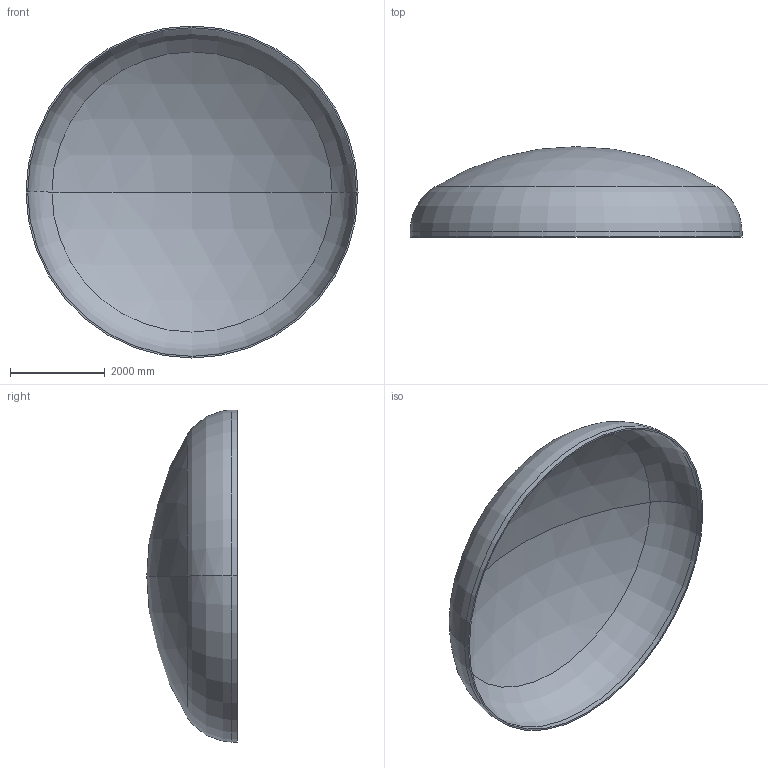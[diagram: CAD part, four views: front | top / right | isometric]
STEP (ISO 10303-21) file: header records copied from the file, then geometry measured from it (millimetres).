
FILE_DESCRIPTION (( 'STEP AP203' ), '1' );
FILE_NAME ('DIN 28013 Korbbogenform_-_Boden DIN 28013 - 7000 x 110 - I - s=35.step', '2016-07-04T10:46:51', ( '' ), ( '' ), 'SwSTEP 2.0', 'SolidWorks 2013', '' );
FILE_SCHEMA (( 'CONFIG_CONTROL_DESIGN' ));
Length unit declared in the file: millimetre
Products named in the file (1): DIN 28013 Korbbogenform_-_Boden DIN 28013 - 7000 x 110 - I - s=35
Bounding box: 7000 x 1905.45 x 7000 mm (x, y, z)
Volume: 1938204499.9 mm3; surface area: 111522906.5 mm2
Topology: 1 solids, 1 shells, 13 faces, 24 edges, 14 vertices
Faces by surface type: torus 4, cylinder 4, sphere 4, plane 1
Entity records: 407 total; most frequent: DIRECTION 72, CARTESIAN_POINT 52, ORIENTED_EDGE 48, AXIS2_PLACEMENT_3D 34, EDGE_CURVE 24, CIRCLE 20, EDGE_LOOP 14, VERTEX_POINT 14
